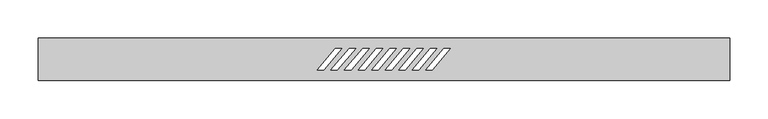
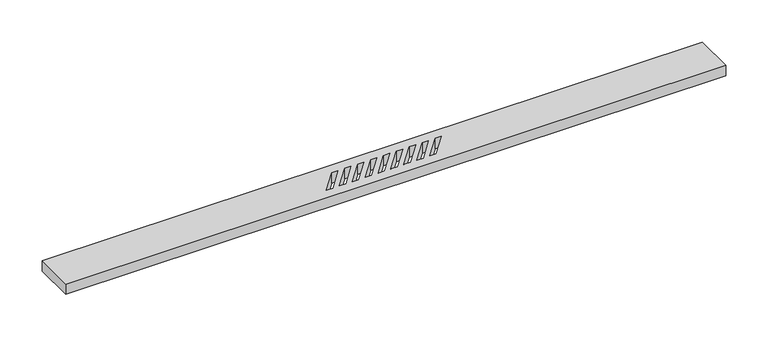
"""IFC4 building model written with IfcOpenShell, lengths in millimetres: sanitary terminal geometry, PF_UN_ShowerDrain S+_ACO : watertrap H=50."""

from ifc_helpers import new_model, si_unit, frame, origin, place, context, project, spatial, polyline, outline, extrude, source, transform, mapped, element, save


def sanitary_terminal_7881a989(model_context):
    return source(origin(), model_context, "Body", "SweptSolid", [
        extrude(outline(polyline([(450.0, 27.5), (450.0, -27.5), (-450.0, -27.5), (-450.0, 27.5), (450.0, 27.5)]), holes=[polyline([(7.3049166, 14.0), (-16.1898731, -14.0), (-7.7047257, -14.0), (15.7900639, 14.0), (7.3049166, 14.0)]), polyline([(24.927915, 14.0), (1.4331253, -14.0), (9.9182727, -14.0), (33.4130624, 14.0), (24.927915, 14.0)]), polyline([(42.5509134, 14.0), (19.0561237, -14.0), (27.5412711, -14.0), (51.0360608, 14.0), (42.5509134, 14.0)]), polyline([(60.1739118, 14.0), (36.6791221, -14.0), (45.1642695, -14.0), (68.6590592, 14.0), (60.1739118, 14.0)]), polyline([(77.7969102, 14.0), (54.3021205, -14.0), (62.7872679, -14.0), (86.2820576, 14.0), (77.7969102, 14.0)]), polyline([(-1.8329345, 14.0), (-10.3180818, 14.0), (-33.8128715, -14.0), (-25.3277241, -14.0), (-1.8329345, 14.0)]), polyline([(-19.4559329, 14.0), (-27.9410802, 14.0), (-51.4358699, -14.0), (-42.9507225, -14.0), (-19.4559329, 14.0)]), polyline([(-37.0775765, 14.0), (-45.5627238, 14.0), (-69.0575135, -14.0), (-60.5723661, -14.0), (-37.0775765, 14.0)]), polyline([(-54.7005749, 14.0), (-63.1857223, 14.0), (-86.6805119, -14.0), (-78.1953645, -14.0), (-54.7005749, 14.0)])]), frame((0.0, 0.0, -15.0), z_axis=(0.0, 0.0, 1.0), x_axis=(1.0, 0.0, 0.0)), (0.0, 0.0, 1.0), 15.0),
    ])


if __name__ == "__main__":
    model = new_model("IFC4")
    model_context = context("Model", 3, world=origin())
    ifc_project = project(units=[si_unit("LENGTHUNIT", "METRE", prefix="MILLI")], contexts=[model_context])
    site = spatial("IfcSite", under=ifc_project)
    building = spatial("IfcBuilding", under=site)
    placement = place(None, origin())
    sanitary_terminal_shape = sanitary_terminal_7881a989(model_context)
    element("IfcSanitaryTerminal", 1, ObjectType="PF_UN_ShowerDrain S+_ACO : watertrap H=50", at=placement, inside=building, context=model_context, shape_type="MappedRepresentation", body=[
        mapped(sanitary_terminal_shape, transform((0.0, 0.0, 0.0), x_axis=(1.0, 0.0, 0.0), y_axis=(0.0, 1.0, 0.0), z_axis=(0.0, 0.0, 1.0))),
    ])
    save(model, "model.ifc")
